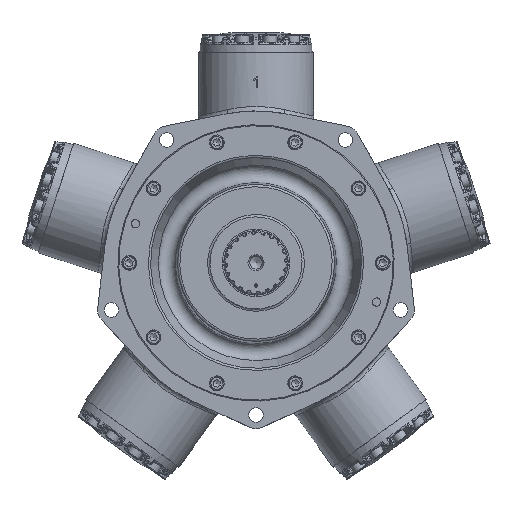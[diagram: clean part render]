
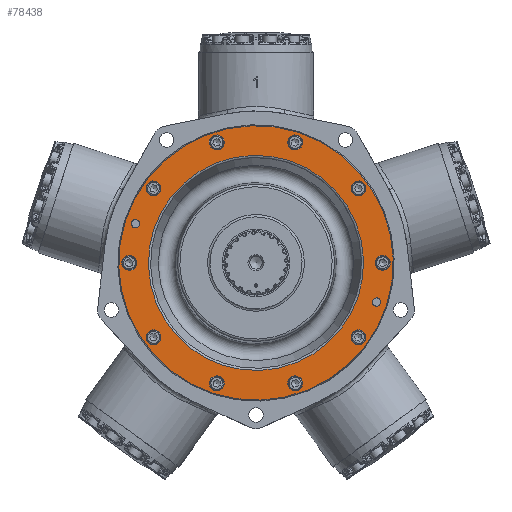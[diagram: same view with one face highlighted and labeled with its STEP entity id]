
A CAD part, top view. The second image highlights one B-rep face of the part: STEP entity #78438.
In plain terms, the highlighted planar face has unit normal (0, 0, 1).
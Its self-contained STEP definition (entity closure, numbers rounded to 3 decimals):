
#1196=FACE_BOUND('',#19195,.T.);
#1197=FACE_BOUND('',#19196,.T.);
#1198=FACE_BOUND('',#19197,.T.);
#1199=FACE_BOUND('',#19198,.T.);
#1200=FACE_BOUND('',#19199,.T.);
#1201=FACE_BOUND('',#19200,.T.);
#1202=FACE_BOUND('',#19201,.T.);
#1203=FACE_BOUND('',#19202,.T.);
#1204=FACE_BOUND('',#19203,.T.);
#1205=FACE_BOUND('',#19204,.T.);
#1206=FACE_BOUND('',#19205,.T.);
#1207=FACE_BOUND('',#19206,.T.);
#1208=FACE_BOUND('',#19207,.T.);
#10593=PLANE('',#84500);
#14345=FACE_OUTER_BOUND('',#19194,.T.);
#19194=EDGE_LOOP('',(#61505));
#19195=EDGE_LOOP('',(#61506));
#19196=EDGE_LOOP('',(#61507));
#19197=EDGE_LOOP('',(#61508));
#19198=EDGE_LOOP('',(#61509));
#19199=EDGE_LOOP('',(#61510));
#19200=EDGE_LOOP('',(#61511));
#19201=EDGE_LOOP('',(#61512));
#19202=EDGE_LOOP('',(#61513));
#19203=EDGE_LOOP('',(#61514));
#19204=EDGE_LOOP('',(#61515));
#19205=EDGE_LOOP('',(#61516));
#19206=EDGE_LOOP('',(#61517));
#19207=EDGE_LOOP('',(#61518));
#23075=CIRCLE('',#84464,5.664);
#23077=CIRCLE('',#84467,5.664);
#23080=CIRCLE('',#84471,10.319);
#23081=CIRCLE('',#84473,10.319);
#23083=CIRCLE('',#84476,10.319);
#23084=CIRCLE('',#84478,10.319);
#23086=CIRCLE('',#84481,10.319);
#23087=CIRCLE('',#84483,10.319);
#23089=CIRCLE('',#84486,10.319);
#23090=CIRCLE('',#84488,10.319);
#23092=CIRCLE('',#84491,10.319);
#23093=CIRCLE('',#84493,10.319);
#23094=CIRCLE('',#84495,189.179);
#23098=CIRCLE('',#84501,148.273);
#32440=VERTEX_POINT('',#193851);
#32442=VERTEX_POINT('',#193857);
#32445=VERTEX_POINT('',#193865);
#32446=VERTEX_POINT('',#193869);
#32448=VERTEX_POINT('',#193875);
#32449=VERTEX_POINT('',#193879);
#32451=VERTEX_POINT('',#193885);
#32452=VERTEX_POINT('',#193889);
#32454=VERTEX_POINT('',#193895);
#32455=VERTEX_POINT('',#193899);
#32457=VERTEX_POINT('',#193905);
#32458=VERTEX_POINT('',#193909);
#32459=VERTEX_POINT('',#193913);
#32463=VERTEX_POINT('',#193925);
#42441=EDGE_CURVE('',#32440,#32440,#23075,.T.);
#42444=EDGE_CURVE('',#32442,#32442,#23077,.T.);
#42449=EDGE_CURVE('',#32445,#32445,#23080,.T.);
#42451=EDGE_CURVE('',#32446,#32446,#23081,.T.);
#42454=EDGE_CURVE('',#32448,#32448,#23083,.T.);
#42456=EDGE_CURVE('',#32449,#32449,#23084,.T.);
#42459=EDGE_CURVE('',#32451,#32451,#23086,.T.);
#42461=EDGE_CURVE('',#32452,#32452,#23087,.T.);
#42464=EDGE_CURVE('',#32454,#32454,#23089,.T.);
#42466=EDGE_CURVE('',#32455,#32455,#23090,.T.);
#42469=EDGE_CURVE('',#32457,#32457,#23092,.T.);
#42471=EDGE_CURVE('',#32458,#32458,#23093,.T.);
#42472=EDGE_CURVE('',#32459,#32459,#23094,.T.);
#42478=EDGE_CURVE('',#32463,#32463,#23098,.T.);
#61505=ORIENTED_EDGE('',*,*,#42472,.F.);
#61506=ORIENTED_EDGE('',*,*,#42441,.T.);
#61507=ORIENTED_EDGE('',*,*,#42444,.T.);
#61508=ORIENTED_EDGE('',*,*,#42449,.T.);
#61509=ORIENTED_EDGE('',*,*,#42451,.T.);
#61510=ORIENTED_EDGE('',*,*,#42454,.T.);
#61511=ORIENTED_EDGE('',*,*,#42456,.T.);
#61512=ORIENTED_EDGE('',*,*,#42459,.T.);
#61513=ORIENTED_EDGE('',*,*,#42461,.T.);
#61514=ORIENTED_EDGE('',*,*,#42464,.T.);
#61515=ORIENTED_EDGE('',*,*,#42466,.T.);
#61516=ORIENTED_EDGE('',*,*,#42469,.T.);
#61517=ORIENTED_EDGE('',*,*,#42471,.T.);
#61518=ORIENTED_EDGE('',*,*,#42478,.F.);
#78438=ADVANCED_FACE('',(#14345,#1196,#1197,#1198,#1199,#1200,#1201,#1202,
#1203,#1204,#1205,#1206,#1207,#1208),#10593,.T.);
#84464=AXIS2_PLACEMENT_3D('',#193852,#97788,#97789);
#84467=AXIS2_PLACEMENT_3D('',#193858,#97795,#97796);
#84471=AXIS2_PLACEMENT_3D('',#193867,#97805,#97806);
#84473=AXIS2_PLACEMENT_3D('',#193871,#97810,#97811);
#84476=AXIS2_PLACEMENT_3D('',#193877,#97817,#97818);
#84478=AXIS2_PLACEMENT_3D('',#193881,#97822,#97823);
#84481=AXIS2_PLACEMENT_3D('',#193887,#97829,#97830);
#84483=AXIS2_PLACEMENT_3D('',#193891,#97834,#97835);
#84486=AXIS2_PLACEMENT_3D('',#193897,#97841,#97842);
#84488=AXIS2_PLACEMENT_3D('',#193901,#97846,#97847);
#84491=AXIS2_PLACEMENT_3D('',#193907,#97853,#97854);
#84493=AXIS2_PLACEMENT_3D('',#193911,#97858,#97859);
#84495=AXIS2_PLACEMENT_3D('',#193914,#97862,#97863);
#84500=AXIS2_PLACEMENT_3D('',#193924,#97874,#97875);
#84501=AXIS2_PLACEMENT_3D('',#193926,#97876,#97877);
#97788=DIRECTION('center_axis',(0.,0.,
-1.));
#97789=DIRECTION('ref_axis',(-0.309,-0.951,0.));
#97795=DIRECTION('center_axis',(0.,0.,
-1.));
#97796=DIRECTION('ref_axis',(-0.309,-0.951,0.));
#97805=DIRECTION('center_axis',(0.,0.,
-1.));
#97806=DIRECTION('ref_axis',(0.809,0.588,0.));
#97810=DIRECTION('center_axis',(0.,0.,
-1.));
#97811=DIRECTION('ref_axis',(1.,0.,0.));
#97817=DIRECTION('center_axis',(0.,0.,
-1.));
#97818=DIRECTION('ref_axis',(0.809,-0.588,0.));
#97822=DIRECTION('center_axis',(0.,0.,
-1.));
#97823=DIRECTION('ref_axis',(0.309,-0.951,0.));
#97829=DIRECTION('center_axis',(0.,0.,
-1.));
#97830=DIRECTION('ref_axis',(-0.309,-0.951,0.));
#97834=DIRECTION('center_axis',(0.,0.,
-1.));
#97835=DIRECTION('ref_axis',(-0.809,-0.588,0.));
#97841=DIRECTION('center_axis',(0.,0.,
-1.));
#97842=DIRECTION('ref_axis',(-1.,0.,0.));
#97846=DIRECTION('center_axis',(0.,0.,
-1.));
#97847=DIRECTION('ref_axis',(-0.809,0.588,0.));
#97853=DIRECTION('center_axis',(0.,0.,
-1.));
#97854=DIRECTION('ref_axis',(-0.309,0.951,0.));
#97858=DIRECTION('center_axis',(0.,0.,
-1.));
#97859=DIRECTION('ref_axis',(0.309,0.951,0.));
#97862=DIRECTION('center_axis',(0.,0.,
-1.));
#97863=DIRECTION('ref_axis',(-0.951,0.309,0.));
#97874=DIRECTION('center_axis',(0.,0.,
1.));
#97875=DIRECTION('ref_axis',(-0.309,-0.951,0.));
#97876=DIRECTION('center_axis',(0.,0.,
1.));
#97877=DIRECTION('ref_axis',(-0.951,0.309,0.));
#193851=CARTESIAN_POINT('',(167.829,-48.575,19.664));
#193852=CARTESIAN_POINT('Origin',(166.078,-53.962,19.664));
#193857=CARTESIAN_POINT('',(-164.328,59.349,19.664));
#193858=CARTESIAN_POINT('Origin',(-166.078,53.962,19.664));
#193865=CARTESIAN_POINT('',(-149.623,-108.707,19.664));
#193867=CARTESIAN_POINT('Origin',(-141.275,-102.642,19.664));
#193869=CARTESIAN_POINT('',(-184.944,0.,19.664));
#193871=CARTESIAN_POINT('Origin',(-174.625,0.,19.664));
#193875=CARTESIAN_POINT('',(-149.623,108.707,19.664));
#193877=CARTESIAN_POINT('Origin',(-141.275,102.642,19.664));
#193879=CARTESIAN_POINT('',(-57.151,175.892,19.664));
#193881=CARTESIAN_POINT('Origin',(-53.962,166.078,19.664));
#193885=CARTESIAN_POINT('',(57.151,175.892,19.664));
#193887=CARTESIAN_POINT('Origin',(53.962,166.078,19.664));
#193889=CARTESIAN_POINT('',(149.623,108.707,19.664));
#193891=CARTESIAN_POINT('Origin',(141.275,102.642,19.664));
#193895=CARTESIAN_POINT('',(184.944,0.,19.664));
#193897=CARTESIAN_POINT('Origin',(174.625,0.,19.664));
#193899=CARTESIAN_POINT('',(149.623,-108.707,19.664));
#193901=CARTESIAN_POINT('Origin',(141.275,-102.642,19.664));
#193905=CARTESIAN_POINT('',(57.151,-175.892,19.664));
#193907=CARTESIAN_POINT('Origin',(53.962,-166.078,19.664));
#193909=CARTESIAN_POINT('',(-57.151,-175.892,19.664));
#193911=CARTESIAN_POINT('Origin',(-53.962,-166.078,19.664));
#193913=CARTESIAN_POINT('',(179.92,-58.459,19.664));
#193914=CARTESIAN_POINT('Origin',(0.,0.,
19.664));
#193924=CARTESIAN_POINT('Origin',(161.549,-52.49,19.664));
#193925=CARTESIAN_POINT('',(45.819,141.016,19.664));
#193926=CARTESIAN_POINT('Origin',(0.,0.,
19.664));
